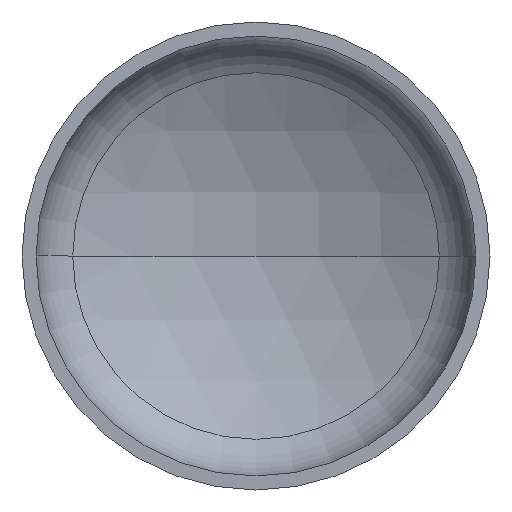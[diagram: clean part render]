
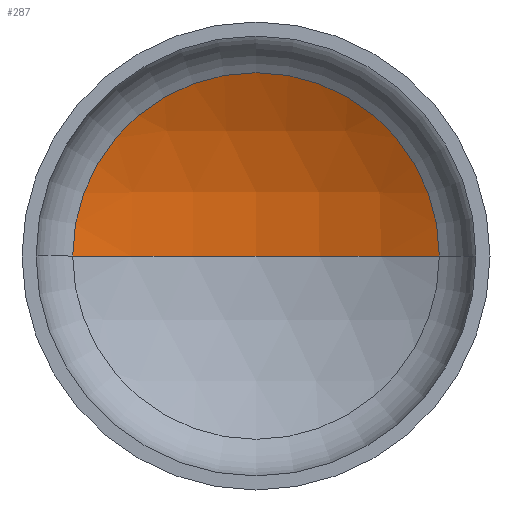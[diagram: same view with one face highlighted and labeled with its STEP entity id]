
A CAD part, front view. The second image highlights one B-rep face of the part: STEP entity #287.
In plain terms, the highlighted spherical face has radius 2400 mm.
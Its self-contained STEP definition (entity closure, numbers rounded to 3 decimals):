
#9 = VERTEX_POINT ( 'NONE', #48 ) ;
#21 = AXIS2_PLACEMENT_3D ( 'NONE', #209, #208, #361 ) ;
#23 = AXIS2_PLACEMENT_3D ( 'NONE', #322, #204, #200 ) ;
#25 = AXIS2_PLACEMENT_3D ( 'NONE', #317, #308, #316 ) ;
#26 = EDGE_LOOP ( 'NONE', ( #108, #105, #61 ) ) ;
#35 = AXIS2_PLACEMENT_3D ( 'NONE', #389, #244, #231 ) ;
#48 = CARTESIAN_POINT ( 'NONE',  ( 1175.258, 501.072, 0. ) ) ;
#61 = ORIENTED_EDGE ( 'NONE', *, *, #347, .T. ) ;
#62 = VERTEX_POINT ( 'NONE', #261 ) ;
#105 = ORIENTED_EDGE ( 'NONE', *, *, #352, .T. ) ;
#106 = VERTEX_POINT ( 'NONE', #247 ) ;
#108 = ORIENTED_EDGE ( 'NONE', *, *, #353, .F. ) ;
#200 = DIRECTION ( 'NONE',  ( -1., 0., 0. ) ) ;
#204 = DIRECTION ( 'NONE',  ( 0., 0., -1. ) ) ;
#208 = DIRECTION ( 'NONE',  ( 0., 0., 1. ) ) ;
#209 = CARTESIAN_POINT ( 'NONE',  ( 0., -1591.479, 0. ) ) ;
#231 = DIRECTION ( 'NONE',  ( -1., 0., 0. ) ) ;
#238 = CIRCLE ( 'NONE', #21, 2400. ) ;
#244 = DIRECTION ( 'NONE',  ( 0., 0., -1. ) ) ;
#247 = CARTESIAN_POINT ( 'NONE',  ( 0., 808.521, 0. ) ) ;
#257 = FACE_OUTER_BOUND ( 'NONE', #26, .T. ) ;
#261 = CARTESIAN_POINT ( 'NONE',  ( -1175.258, 501.072, 0. ) ) ;
#264 = SPHERICAL_SURFACE ( 'NONE', #35, 2400. ) ;
#287 = ADVANCED_FACE ( 'NONE', ( #257 ), #264, .F. ) ;
#308 = DIRECTION ( 'NONE',  ( 0., -1., 0. ) ) ;
#316 = DIRECTION ( 'NONE',  ( 1., 0., 0. ) ) ;
#317 = CARTESIAN_POINT ( 'NONE',  ( 0., 501.072, 0. ) ) ;
#322 = CARTESIAN_POINT ( 'NONE',  ( 0., -1591.479, 0. ) ) ;
#347 = EDGE_CURVE ( 'NONE', #9, #62, #357, .T. ) ;
#352 = EDGE_CURVE ( 'NONE', #106, #9, #364, .T. ) ;
#353 = EDGE_CURVE ( 'NONE', #106, #62, #238, .T. ) ;
#357 = CIRCLE ( 'NONE', #25, 1175.258 ) ;
#361 = DIRECTION ( 'NONE',  ( 1., 0., 0. ) ) ;
#364 = CIRCLE ( 'NONE', #23, 2400. ) ;
#389 = CARTESIAN_POINT ( 'NONE',  ( 0., -1591.479, 0. ) ) ;
